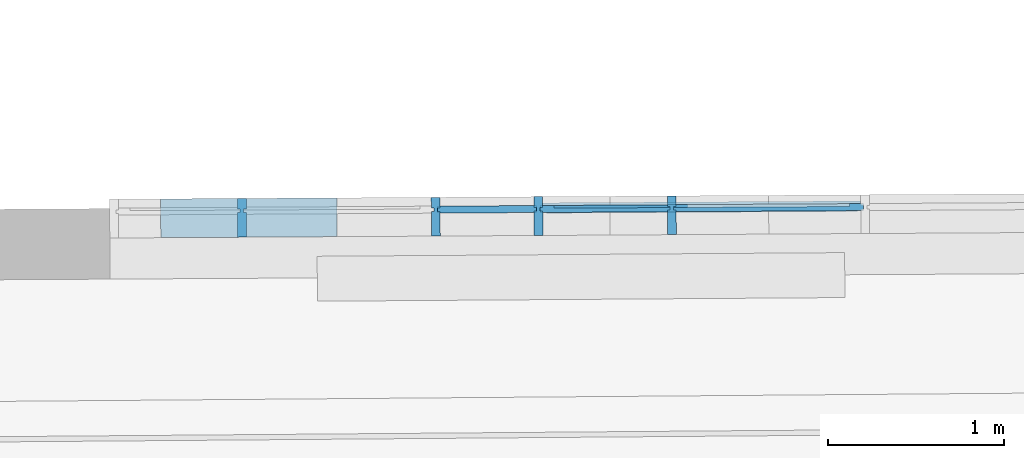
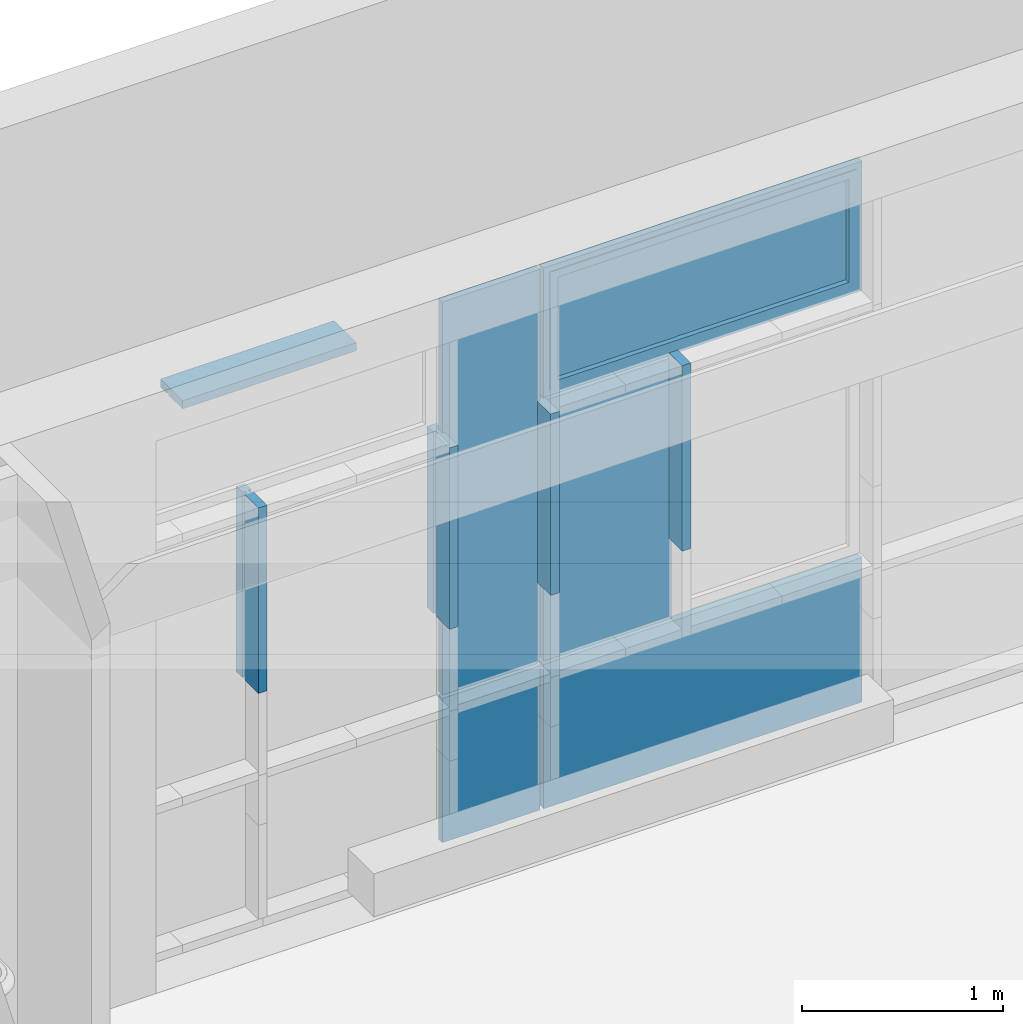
# One storey, part 132 of 196: 11 building element parts, 1 element without a shape of its own.
"""IFC2X3 building model written with IfcOpenShell, lengths in metres."""

from ifc_helpers import new_model, entity, si_unit, converted_unit, derived_unit, money_unit, direction, frame, origin_with_axes, place, context, subcontext, project, spatial, faceted_brep, material, type_object, element, aggregate, save


model = new_model("IFC2X3")

# Units and contexts
model_context = context("Model", 3, precision=1e-05, world=origin_with_axes(), true_north=direction((0.0, 1.0)))
body_context = subcontext(model_context, "Body", "Model", "MODEL_VIEW")
ifc_project = project(units=[si_unit("LENGTHUNIT", "METRE"), si_unit("AREAUNIT", "SQUARE_METRE"), si_unit("VOLUMEUNIT", "CUBIC_METRE"), converted_unit("PLANEANGLEUNIT", "DEGREE", entity("IfcPlaneAngleMeasure", 0.0174532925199), si_unit("PLANEANGLEUNIT", "RADIAN"), dimensions=[0, 0, 0, 0, 0, 0, 0]), money_unit("EUR"), converted_unit("TIMEUNIT", "Year", entity("IfcTimeMeasure", 31556926.0), si_unit("TIMEUNIT", "SECOND"), dimensions=[0, 0, 1, 0, 0, 0, 0]), si_unit("MASSUNIT", "GRAM", prefix="KILO"), si_unit("THERMODYNAMICTEMPERATUREUNIT", "DEGREE_CELSIUS"), si_unit("LUMINOUSINTENSITYUNIT", "LUMEN"), si_unit("ENERGYUNIT", "JOULE", prefix="MEGA"), derived_unit("THERMALCONDUCTANCEUNIT", [(si_unit("POWERUNIT", "WATT"), 1), (si_unit("LENGTHUNIT", "METRE"), -1), (si_unit("THERMODYNAMICTEMPERATUREUNIT", "KELVIN"), -1)]), derived_unit("SPECIFICHEATCAPACITYUNIT", [(si_unit("ENERGYUNIT", "JOULE"), 1), (si_unit("MASSUNIT", "GRAM", prefix="KILO"), -1), (si_unit("THERMODYNAMICTEMPERATUREUNIT", "KELVIN"), -1)]), derived_unit("MASSDENSITYUNIT", [(si_unit("MASSUNIT", "GRAM", prefix="KILO"), 1), (si_unit("VOLUMEUNIT", "CUBIC_METRE"), -1)])], contexts=[model_context])

# Site, building, storey
site_placement = place(None, origin_with_axes())
site = spatial("IfcSite", under=ifc_project, at=site_placement, Name="Gelände", CompositionType="ELEMENT")
building_placement = place(site_placement, origin_with_axes())
building = spatial("IfcBuilding", under=site, at=building_placement, Name="Gebäude", CompositionType="ELEMENT")
storey_placement = place(building_placement, frame((0.0, 0.0, -3.0), z_axis=(0.0, 0.0, 1.0), x_axis=(1.0, 0.0, 0.0)))
storey = spatial("IfcBuildingStorey", under=building, at=storey_placement, Name="KELLERGESCHOSS", CompositionType="ELEMENT", Elevation=-3.0)

# Proxy, building element parts
building_element_proxy_type = type_object("IfcBuildingElementProxyType", Name="Fassadentyp", PredefinedType="NOTDEFINED")
proxy_placement = place(storey_placement, frame((-23.6479994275, 53.9595773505, 0.421025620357), z_axis=(0.0, 0.0, 1.0), x_axis=(1.0, 0.0, 0.0)))
proxy = element("IfcBuildingElementProxy", 1, at=proxy_placement, inside=storey, type_object=building_element_proxy_type, Name="Fassade-002")
ifc_material_1 = material(Name="45_Glas, Normalglas")
building_element_part_1_placement = place(proxy_placement, origin_with_axes())
building_element_part_1 = element("IfcBuildingElementPart", 2, at=building_element_part_1_placement, material=ifc_material_1, Name="45_Glas, Normalglas", context=body_context, shape_type="Brep", body=[
    faceted_brep([(1.14490036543, -0.0132366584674, 0.910851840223), (1.54182975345, -0.0108917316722, 0.910851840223), (1.54159345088, 0.0291075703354, 0.910851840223), (1.14466406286, 0.0267626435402, 0.910851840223), (1.14490036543, -0.0132366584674, 0.619999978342), (1.14490036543, -0.0132366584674, 0.0349999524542), (1.54182975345, -0.0108917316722, 0.0349999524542), (2.44181404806, -0.00557492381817, 0.0349999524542), (2.97945075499, -0.00239874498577, 0.0349999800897), (2.97945075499, -0.00239874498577, 0.619999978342), (2.97945075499, -0.00239874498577, 0.910851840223), (2.44181404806, -0.00557492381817, 0.910851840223), (1.89201811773, -0.00882293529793, 0.910851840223), (1.89178181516, 0.0311763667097, 0.910851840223), (2.44157774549, 0.0344243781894, 0.910851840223), (2.97921445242, 0.0376005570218, 0.910851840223), (2.97921445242, 0.0376005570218, 0.619999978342), (2.97921445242, 0.0376005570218, 0.0349999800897), (2.44157774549, 0.0344243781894, 0.0349999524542), (1.54159345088, 0.0291075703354, 0.0349999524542), (1.14466406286, 0.0267626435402, 0.0349999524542), (1.14466406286, 0.0267626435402, 0.619999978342)], [[[0, 1, 2, 3]], [[0, 4, 5, 6, 7, 8, 9, 10, 11, 12, 1]], [[1, 12, 13, 2]], [[3, 2, 13, 14, 15, 16, 17, 18, 19, 20, 21]], [[4, 0, 3, 21]], [[5, 4, 21, 20]], [[6, 5, 20, 19]], [[7, 6, 19, 18]], [[8, 7, 18, 17]], [[9, 8, 17, 16]], [[10, 9, 16, 15]], [[11, 10, 15, 14]], [[12, 11, 14, 13]]]),
])
building_element_part_2_placement = place(proxy_placement, origin_with_axes())
building_element_part_2 = element("IfcBuildingElementPart", 3, at=building_element_part_2_placement, material=ifc_material_1, Name="45_Glas, Normalglas", context=body_context, shape_type="Brep", body=[
    faceted_brep([(0.562604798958, -0.0166766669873, 0.910851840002), (1.12490071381, -0.0133548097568, 0.910851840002), (1.12466441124, 0.0266444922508, 0.910851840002), (0.562368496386, 0.0233226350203, 0.910851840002), (0.562604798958, -0.0166766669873, 0.619999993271), (0.562604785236, -0.0166766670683, 0.0349999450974), (1.12490071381, -0.0133548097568, 0.0349999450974), (1.12490071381, -0.0133548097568, 0.619999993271), (1.12466441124, 0.0266444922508, 0.619999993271), (1.12466441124, 0.0266444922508, 0.0349999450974), (0.562368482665, 0.0233226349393, 0.0349999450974), (0.562368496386, 0.0233226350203, 0.619999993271)], [[[0, 1, 2, 3]], [[0, 4, 5, 6, 7, 1]], [[1, 7, 8, 2]], [[3, 2, 8, 9, 10, 11]], [[4, 0, 3, 11]], [[5, 4, 11, 10]], [[6, 5, 10, 9]], [[7, 6, 9, 8]]]),
])
building_element_part_3_placement = place(proxy_placement, origin_with_axes())
building_element_part_3 = element("IfcBuildingElementPart", 4, at=building_element_part_3_placement, material=ifc_material_1, Name="45_Glas, Normalglas", context=body_context, shape_type="Brep", body=[
    faceted_brep([(0.562604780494, -0.0166766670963, 3.31499988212), (1.12490070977, -0.0133548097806, 3.31499988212), (1.1246644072, 0.026644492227, 3.31499988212), (0.562368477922, 0.0233226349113, 3.31499988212), (0.562604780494, -0.0166766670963, 2.52000000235), (0.562604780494, -0.0166766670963, 1.41999998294), (0.56260481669, -0.0166766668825, 0.930851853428), (1.12490070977, -0.0133548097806, 0.930851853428), (1.12490070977, -0.0133548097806, 1.41999998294), (1.12490070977, -0.0133548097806, 2.52000000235), (1.1246644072, 0.026644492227, 2.52000000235), (1.1246644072, 0.026644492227, 1.41999998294), (1.1246644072, 0.026644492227, 0.930851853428), (0.562368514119, 0.0233226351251, 0.930851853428), (0.562368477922, 0.0233226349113, 1.41999998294), (0.562368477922, 0.0233226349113, 2.52000000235)], [[[0, 1, 2, 3]], [[0, 4, 5, 6, 7, 8, 9, 1]], [[1, 9, 10, 2]], [[3, 2, 10, 11, 12, 13, 14, 15]], [[4, 0, 3, 15]], [[5, 4, 15, 14]], [[6, 5, 14, 13]], [[7, 6, 13, 12]], [[8, 7, 12, 11]], [[9, 8, 11, 10]]]),
])
building_element_part_4_placement = place(proxy_placement, origin_with_axes())
building_element_part_4 = element("IfcBuildingElementPart", 5, at=building_element_part_4_placement, material=ifc_material_1, Name="45_Glas, Normalglas", context=body_context, shape_type="Brep", body=[
    faceted_brep([(1.14490036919, -0.0132366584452, 2.50999999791), (1.54182974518, -0.010891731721, 2.50999999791), (1.54159344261, 0.0291075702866, 2.50999999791), (1.14466406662, 0.0267626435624, 2.50999999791), (1.14490036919, -0.0132366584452, 1.41999998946), (1.14490036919, -0.0132366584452, 0.930851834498), (1.54182974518, -0.010891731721, 0.930851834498), (1.88201828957, -0.00888201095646, 0.930851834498), (1.8820183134, -0.00888201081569, 1.41999998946), (1.88201828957, -0.00888201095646, 2.50999999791), (1.881781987, 0.0311172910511, 2.50999999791), (1.88178201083, 0.0311172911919, 1.41999998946), (1.881781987, 0.0311172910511, 0.930851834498), (1.54159344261, 0.0291075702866, 0.930851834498), (1.14466406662, 0.0267626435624, 0.930851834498), (1.14466406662, 0.0267626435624, 1.41999998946)], [[[0, 1, 2, 3]], [[0, 4, 5, 6, 7, 8, 9, 1]], [[1, 9, 10, 2]], [[3, 2, 10, 11, 12, 13, 14, 15]], [[4, 0, 3, 15]], [[5, 4, 15, 14]], [[6, 5, 14, 13]], [[7, 6, 13, 12]], [[8, 7, 12, 11]], [[9, 8, 11, 10]]]),
])
ifc_material_2 = material(Name="53_Metall, Aluminium")
building_element_part_5_placement = place(proxy_placement, origin_with_axes())
building_element_part_5 = element("IfcBuildingElementPart", 6, at=building_element_part_5_placement, material=ifc_material_2, Name="53_Metall, Aluminium", context=body_context, shape_type="Brep", body=[
    faceted_brep([(2.96415563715, 0.0475117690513, 2.54499999), (1.15960472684, 0.0368510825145, 2.54499999), (1.15957518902, 0.0418509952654, 2.54499999), (2.96412609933, 0.0525116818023, 2.54499999), (2.91915642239, 0.0472459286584, 2.58999999), (1.2046039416, 0.0371169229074, 2.58999999), (1.20457440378, 0.0421168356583, 2.58999999), (2.91912688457, 0.0522458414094, 2.58999999)], [[[0, 1, 2, 3]], [[0, 4, 5, 1]], [[1, 5, 6, 2]], [[3, 2, 6, 7]], [[4, 0, 3, 7]], [[5, 4, 7, 6]]]),
    faceted_brep([(1.15960472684, 0.0368510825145, 2.54499999), (1.15960472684, 0.0368510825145, 3.29999989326), (1.15957518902, 0.0418509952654, 3.29999989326), (1.15957518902, 0.0418509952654, 2.54499999), (1.2046039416, 0.0371169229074, 2.58999999), (1.2046039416, 0.0371169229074, 3.25499989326), (1.20457440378, 0.0421168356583, 3.25499989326), (1.20457440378, 0.0421168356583, 2.58999999)], [[[0, 1, 2, 3]], [[0, 4, 5, 1]], [[1, 5, 6, 2]], [[3, 2, 6, 7]], [[4, 0, 3, 7]], [[5, 4, 7, 6]]]),
    faceted_brep([(2.96415563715, 0.0475117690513, 3.29999989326), (2.91915642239, 0.0472459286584, 3.25499989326), (2.91912688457, 0.0522458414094, 3.25499989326), (2.96412609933, 0.0525116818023, 3.29999989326), (1.15960472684, 0.0368510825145, 3.29999989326), (1.2046039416, 0.0371169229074, 3.25499989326), (1.20457440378, 0.0421168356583, 3.25499989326), (1.15957518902, 0.0418509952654, 3.29999989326)], [[[0, 1, 2, 3]], [[0, 4, 5, 1]], [[1, 5, 6, 2]], [[3, 2, 6, 7]], [[4, 0, 3, 7]], [[5, 4, 7, 6]]]),
    faceted_brep([(2.96415563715, 0.0475117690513, 2.54499999), (2.91915642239, 0.0472459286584, 2.58999999), (2.91912688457, 0.0522458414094, 2.58999999), (2.96412609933, 0.0525116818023, 2.54499999), (2.96415563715, 0.0475117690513, 3.29999989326), (2.91915642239, 0.0472459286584, 3.25499989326), (2.91912688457, 0.0522458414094, 3.25499989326), (2.96412609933, 0.0525116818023, 3.29999989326)], [[[0, 1, 2, 3]], [[0, 4, 5, 1]], [[1, 5, 6, 2]], [[3, 2, 6, 7]], [[4, 0, 3, 7]], [[5, 4, 7, 6]]]),
    faceted_brep([(2.96445101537, -0.00248735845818, 2.54499999), (1.15990010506, -0.013148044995, 2.54499999), (1.15960472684, 0.0368510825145, 2.54499999), (2.96415563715, 0.0475117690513, 2.54499999), (2.94445136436, -0.00260550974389, 2.56499999), (1.17989975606, -0.0130298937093, 2.56499999), (1.17960437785, 0.0369692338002, 2.56499999), (2.94415598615, 0.0473936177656, 2.56499999)], [[[0, 1, 2, 3]], [[0, 4, 5, 1]], [[1, 5, 6, 2]], [[3, 2, 6, 7]], [[4, 0, 3, 7]], [[5, 4, 7, 6]]]),
    faceted_brep([(1.15990010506, -0.013148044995, 2.54499999), (1.15990010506, -0.013148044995, 3.29999989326), (1.15960472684, 0.0368510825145, 3.29999989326), (1.15960472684, 0.0368510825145, 2.54499999), (1.17989975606, -0.0130298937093, 2.56499999), (1.17989975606, -0.0130298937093, 3.27999989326), (1.17960437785, 0.0369692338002, 3.27999989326), (1.17960437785, 0.0369692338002, 2.56499999)], [[[0, 1, 2, 3]], [[0, 4, 5, 1]], [[1, 5, 6, 2]], [[3, 2, 6, 7]], [[4, 0, 3, 7]], [[5, 4, 7, 6]]]),
    faceted_brep([(2.96445101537, -0.00248735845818, 3.29999989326), (2.94445136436, -0.00260550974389, 3.27999989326), (2.94415598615, 0.0473936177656, 3.27999989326), (2.96415563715, 0.0475117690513, 3.29999989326), (1.15990010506, -0.013148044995, 3.29999989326), (1.17989975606, -0.0130298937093, 3.27999989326), (1.17960437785, 0.0369692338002, 3.27999989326), (1.15960472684, 0.0368510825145, 3.29999989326)], [[[0, 1, 2, 3]], [[0, 4, 5, 1]], [[1, 5, 6, 2]], [[3, 2, 6, 7]], [[4, 0, 3, 7]], [[5, 4, 7, 6]]]),
    faceted_brep([(2.96445101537, -0.00248735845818, 2.54499999), (2.94445136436, -0.00260550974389, 2.56499999), (2.94415598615, 0.0473936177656, 2.56499999), (2.96415563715, 0.0475117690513, 2.54499999), (2.96445101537, -0.00248735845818, 3.29999989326), (2.94445136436, -0.00260550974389, 3.27999989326), (2.94415598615, 0.0473936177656, 3.27999989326), (2.96415563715, 0.0475117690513, 3.29999989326)], [[[0, 1, 2, 3]], [[0, 4, 5, 1]], [[1, 5, 6, 2]], [[3, 2, 6, 7]], [[4, 0, 3, 7]], [[5, 4, 7, 6]]]),
    faceted_brep([(2.97945075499, -0.00239874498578, 2.52999998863), (1.14490036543, -0.0132366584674, 2.52999998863), (1.14466406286, 0.0267626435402, 2.52999998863), (2.97921445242, 0.0376005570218, 2.52999998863), (2.96445101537, -0.00248735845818, 2.54499999), (1.15990010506, -0.013148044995, 2.54499999), (1.15966380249, 0.0268512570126, 2.54499999), (2.96421471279, 0.0375119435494, 2.54499999)], [[[0, 1, 2, 3]], [[0, 4, 5, 1]], [[1, 5, 6, 2]], [[3, 2, 6, 7]], [[4, 0, 3, 7]], [[5, 4, 7, 6]]]),
    faceted_brep([(1.14490036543, -0.0132366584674, 2.52999998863), (1.14490036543, -0.0132366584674, 3.31499989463), (1.14466406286, 0.0267626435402, 3.31499989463), (1.14466406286, 0.0267626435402, 2.52999998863), (1.15990010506, -0.013148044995, 2.54499999), (1.15990010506, -0.013148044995, 3.29999989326), (1.15966380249, 0.0268512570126, 3.29999989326), (1.15966380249, 0.0268512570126, 2.54499999)], [[[0, 1, 2, 3]], [[0, 4, 5, 1]], [[1, 5, 6, 2]], [[3, 2, 6, 7]], [[4, 0, 3, 7]], [[5, 4, 7, 6]]]),
    faceted_brep([(1.14490036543, -0.0132366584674, 3.31499989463), (2.97945075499, -0.00239874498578, 3.31499989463), (2.97921445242, 0.0376005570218, 3.31499989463), (1.14466406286, 0.0267626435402, 3.31499989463), (1.15990010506, -0.013148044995, 3.29999989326), (2.96445101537, -0.00248735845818, 3.29999989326), (2.96421471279, 0.0375119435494, 3.29999989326), (1.15966380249, 0.0268512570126, 3.29999989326)], [[[0, 1, 2, 3]], [[0, 4, 5, 1]], [[1, 5, 6, 2]], [[3, 2, 6, 7]], [[4, 0, 3, 7]], [[5, 4, 7, 6]]]),
    faceted_brep([(2.97945075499, -0.00239874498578, 3.31499989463), (2.97945075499, -0.00239874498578, 2.52999998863), (2.97921445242, 0.0376005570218, 2.52999998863), (2.97921445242, 0.0376005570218, 3.31499989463), (2.96445101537, -0.00248735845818, 3.29999989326), (2.96445101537, -0.00248735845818, 2.54499999), (2.96421471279, 0.0375119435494, 2.54499999), (2.96421471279, 0.0375119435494, 3.29999989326)], [[[0, 1, 2, 3]], [[0, 4, 5, 1]], [[1, 5, 6, 2]], [[3, 2, 6, 7]], [[4, 0, 3, 7]], [[5, 4, 7, 6]]]),
    faceted_brep([(2.89915677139, 0.0471277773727, 2.60999999), (2.89948168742, -0.00787126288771, 2.60999999), (2.89948168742, -0.00787126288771, 3.23499989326), (2.89915677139, 0.0471277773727, 3.23499989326), (2.94415598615, 0.0473936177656, 2.56499999), (2.94448090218, -0.00760542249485, 2.56499999), (2.94448090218, -0.00760542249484, 3.27999989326), (2.94415598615, 0.0473936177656, 3.27999989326)], [[[0, 1, 2, 3]], [[4, 5, 1, 0]], [[1, 5, 6, 2]], [[3, 2, 6, 7]], [[0, 3, 7, 4]], [[7, 6, 5, 4]]]),
    faceted_brep([(1.17960437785, 0.0369692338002, 2.56499999), (1.17992929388, -0.0180298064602, 2.56499999), (1.17992929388, -0.0180298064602, 3.27999989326), (1.17960437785, 0.0369692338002, 3.27999989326), (1.2246035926, 0.0372350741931, 2.60999999), (1.22492850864, -0.0177639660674, 2.60999999), (1.22492850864, -0.0177639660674, 3.23499989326), (1.2246035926, 0.0372350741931, 3.23499989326)], [[[0, 1, 2, 3]], [[4, 5, 1, 0]], [[1, 5, 6, 2]], [[3, 2, 6, 7]], [[0, 3, 7, 4]], [[7, 6, 5, 4]]]),
    faceted_brep([(1.17960437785, 0.0369692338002, 2.56499999), (1.17992929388, -0.0180298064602, 2.56499999), (1.22492850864, -0.0177639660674, 2.60999999), (1.2246035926, 0.0372350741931, 2.60999999), (2.94415598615, 0.0473936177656, 2.56499999), (2.94448090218, -0.00760542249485, 2.56499999), (2.89948168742, -0.00787126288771, 2.60999999), (2.89915677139, 0.0471277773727, 2.60999999)], [[[0, 1, 2, 3]], [[4, 5, 1, 0]], [[1, 5, 6, 2]], [[3, 2, 6, 7]], [[0, 3, 7, 4]], [[7, 6, 5, 4]]]),
    faceted_brep([(2.94415598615, 0.0473936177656, 3.27999989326), (2.94448090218, -0.00760542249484, 3.27999989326), (2.89948168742, -0.00787126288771, 3.23499989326), (2.89915677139, 0.0471277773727, 3.23499989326), (1.17960437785, 0.0369692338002, 3.27999989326), (1.17992929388, -0.0180298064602, 3.27999989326), (1.22492850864, -0.0177639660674, 3.23499989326), (1.2246035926, 0.0372350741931, 3.23499989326)], [[[0, 1, 2, 3]], [[4, 5, 1, 0]], [[1, 5, 6, 2]], [[3, 2, 6, 7]], [[0, 3, 7, 4]], [[7, 6, 5, 4]]]),
])
building_element_part_6_placement = place(proxy_placement, origin_with_axes())
building_element_part_6 = element("IfcBuildingElementPart", 7, at=building_element_part_6_placement, material=ifc_material_1, Name="45_Glas, Normalglas", context=body_context, shape_type="Brep", body=[
    faceted_brep([(2.89921584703, 0.0371279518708, 2.60999999), (2.89931036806, 0.0211282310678, 2.60999999), (1.22475718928, 0.0112355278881, 2.60999999), (1.22466266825, 0.0272352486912, 2.60999999), (2.89921584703, 0.0371279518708, 3.23499989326), (2.89931036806, 0.0211282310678, 3.23499989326), (1.22475718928, 0.0112355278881, 3.23499989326), (1.22466266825, 0.0272352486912, 3.23499989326)], [[[0, 1, 2, 3]], [[4, 5, 1, 0]], [[1, 5, 6, 2]], [[3, 2, 6, 7]], [[0, 3, 7, 4]], [[7, 6, 5, 4]]]),
])
building_element_part_7_placement = place(proxy_placement, origin_with_axes())
building_element_part_7 = element("IfcBuildingElementPart", 8, at=building_element_part_7_placement, material=ifc_material_2, Name="53_Metall, Aluminium", context=body_context, shape_type="Brep", body=[
    faceted_brep([(-0.556919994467, -0.0132902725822, 2.54499998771), (-0.57191973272, -0.0133788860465, 2.54499998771), (-0.57109267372, -0.153376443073, 2.54499998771), (-0.521093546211, -0.153081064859, 2.54499998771), (-0.521920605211, -0.0130835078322, 2.54499998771), (-0.536920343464, -0.0131721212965, 2.54499998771), (-0.537038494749, 0.00682752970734, 2.54499998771), (-0.522038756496, 0.00691614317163, 2.54499998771), (-0.522393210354, 0.066915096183, 2.54499998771), (-0.572392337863, 0.0666197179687, 2.54499998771), (-0.572037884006, 0.00662076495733, 2.54499998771), (-0.557038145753, 0.00670937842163, 2.54499998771), (-0.556919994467, -0.0132902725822, 1.41999998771), (-0.57191973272, -0.0133788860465, 1.41999998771), (-0.57109267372, -0.153376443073, 1.41999998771), (-0.521093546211, -0.153081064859, 1.41999998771), (-0.521920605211, -0.0130835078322, 1.41999998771), (-0.536920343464, -0.0131721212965, 1.41999998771), (-0.537038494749, 0.00682752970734, 1.41999998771), (-0.522038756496, 0.00691614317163, 1.41999998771), (-0.522393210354, 0.066915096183, 1.41999998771), (-0.572392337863, 0.0666197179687, 1.41999998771), (-0.572037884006, 0.00662076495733, 1.41999998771), (-0.557038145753, 0.00670937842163, 1.41999998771)], [[[0, 1, 2, 3, 4, 5, 6, 7, 8, 9, 10, 11]], [[1, 0, 12, 13]], [[1, 13, 14, 2]], [[3, 2, 14, 15]], [[4, 3, 15, 16]], [[4, 16, 17, 5]], [[5, 17, 18, 6]], [[7, 6, 18, 19]], [[19, 20, 8, 7]], [[9, 8, 20, 21]], [[22, 10, 9, 21]], [[11, 10, 22, 23]], [[0, 11, 23, 12]], [[23, 22, 21, 20, 19, 18, 17, 16, 15, 14, 13, 12]]]),
])
building_element_part_8_placement = place(proxy_placement, origin_with_axes())
building_element_part_8 = element("IfcBuildingElementPart", 9, at=building_element_part_8_placement, material=ifc_material_2, Name="53_Metall, Aluminium", context=body_context, shape_type="Brep", body=[
    faceted_brep([(1.1248416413, -0.00335498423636, 2.51999998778), (1.10984190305, -0.00344359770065, 2.51999998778), (1.11066896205, -0.143441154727, 2.51999998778), (1.16066808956, -0.143145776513, 2.51999998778), (1.15984103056, -0.00314821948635, 2.51999998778), (1.14484129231, -0.00323683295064, 2.51999998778), (1.14472314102, 0.0167628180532, 2.51999998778), (1.15972287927, 0.0168514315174, 2.51999998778), (1.15936842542, 0.0768503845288, 2.51999998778), (1.10936929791, 0.0765550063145, 2.51999998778), (1.10972375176, 0.0165560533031, 2.51999998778), (1.12472349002, 0.0166446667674, 2.51999998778), (1.1248416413, -0.00335498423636, 1.41999998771), (1.10984190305, -0.00344359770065, 1.41999998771), (1.11066896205, -0.143441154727, 1.41999998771), (1.16066808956, -0.143145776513, 1.41999998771), (1.15984103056, -0.00314821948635, 1.41999998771), (1.14484129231, -0.00323683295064, 1.41999998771), (1.14472314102, 0.0167628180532, 1.41999998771), (1.15972287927, 0.0168514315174, 1.41999998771), (1.15936842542, 0.0768503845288, 1.41999998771), (1.10936929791, 0.0765550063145, 1.41999998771), (1.10972375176, 0.0165560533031, 1.41999998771), (1.12472349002, 0.0166446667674, 1.41999998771)], [[[0, 1, 2, 3, 4, 5, 6, 7, 8, 9, 10, 11]], [[1, 0, 12, 13]], [[1, 13, 14, 2]], [[3, 2, 14, 15]], [[4, 3, 15, 16]], [[4, 16, 17, 5]], [[5, 17, 18, 6]], [[7, 6, 18, 19]], [[19, 20, 8, 7]], [[9, 8, 20, 21]], [[22, 10, 9, 21]], [[11, 10, 22, 23]], [[0, 11, 23, 12]], [[23, 22, 21, 20, 19, 18, 17, 16, 15, 14, 13, 12]]]),
])
building_element_part_9_placement = place(proxy_placement, origin_with_axes())
building_element_part_9 = element("IfcBuildingElementPart", 10, at=building_element_part_9_placement, material=ifc_material_2, Name="53_Metall, Aluminium", context=body_context, shape_type="Brep", body=[
    faceted_brep([(0.542546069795, -0.00679499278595, 2.51999998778), (0.527546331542, -0.00688360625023, 2.51999998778), (0.528373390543, -0.146881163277, 2.51999998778), (0.578372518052, -0.146585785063, 2.51999998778), (0.577545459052, -0.00658822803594, 2.51999998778), (0.562545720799, -0.00667684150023, 2.51999998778), (0.562427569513, 0.0133228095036, 2.51999998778), (0.577427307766, 0.0134114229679, 2.51999998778), (0.577072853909, 0.0734103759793, 2.51999998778), (0.5270737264, 0.073114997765, 2.51999998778), (0.527428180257, 0.0131160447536, 2.51999998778), (0.54242791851, 0.0132046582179, 2.51999998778), (0.542546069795, -0.00679499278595, 1.41999998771), (0.527546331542, -0.00688360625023, 1.41999998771), (0.528373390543, -0.146881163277, 1.41999998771), (0.578372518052, -0.146585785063, 1.41999998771), (0.577545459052, -0.00658822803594, 1.41999998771), (0.562545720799, -0.00667684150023, 1.41999998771), (0.562427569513, 0.0133228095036, 1.41999998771), (0.577427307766, 0.0134114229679, 1.41999998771), (0.577072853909, 0.0734103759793, 1.41999998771), (0.5270737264, 0.073114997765, 1.41999998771), (0.527428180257, 0.0131160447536, 1.41999998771), (0.54242791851, 0.0132046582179, 1.41999998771)], [[[0, 1, 2, 3, 4, 5, 6, 7, 8, 9, 10, 11]], [[1, 0, 12, 13]], [[1, 13, 14, 2]], [[3, 2, 14, 15]], [[4, 3, 15, 16]], [[4, 16, 17, 5]], [[5, 17, 18, 6]], [[7, 6, 18, 19]], [[19, 20, 8, 7]], [[9, 8, 20, 21]], [[22, 10, 9, 21]], [[11, 10, 22, 23]], [[0, 11, 23, 12]], [[23, 22, 21, 20, 19, 18, 17, 16, 15, 14, 13, 12]]]),
])
building_element_part_10_placement = place(proxy_placement, origin_with_axes())
building_element_part_10 = element("IfcBuildingElementPart", 11, at=building_element_part_10_placement, material=ifc_material_2, Name="53_Metall, Aluminium", context=body_context, shape_type="Brep", body=[
    faceted_brep([(1.88195922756, 0.00111781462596, 2.54499998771), (1.86695948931, 0.00102920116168, 2.54499998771), (1.86778654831, -0.138968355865, 2.54499998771), (1.91778567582, -0.138672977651, 2.54499998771), (1.91695861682, 0.00132457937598, 2.54499998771), (1.90195887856, 0.00123596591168, 2.54499998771), (1.90184072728, 0.0212356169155, 2.54499998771), (1.91684046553, 0.0213242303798, 2.54499998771), (1.91648601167, 0.0813231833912, 2.54499998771), (1.86648688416, 0.0810278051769, 2.54499998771), (1.86684133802, 0.0210288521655, 2.54499998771), (1.88184107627, 0.0211174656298, 2.54499998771), (1.88195922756, 0.00111781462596, 1.41999998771), (1.86695948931, 0.00102920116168, 1.41999998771), (1.86778654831, -0.138968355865, 1.41999998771), (1.91778567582, -0.138672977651, 1.41999998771), (1.91695861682, 0.00132457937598, 1.41999998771), (1.90195887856, 0.00123596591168, 1.41999998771), (1.90184072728, 0.0212356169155, 1.41999998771), (1.91684046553, 0.0213242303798, 1.41999998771), (1.91648601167, 0.0813231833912, 1.41999998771), (1.86648688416, 0.0810278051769, 1.41999998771), (1.86684133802, 0.0210288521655, 1.41999998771), (1.88184107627, 0.0211174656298, 1.41999998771)], [[[0, 1, 2, 3, 4, 5, 6, 7, 8, 9, 10, 11]], [[1, 0, 12, 13]], [[1, 13, 14, 2]], [[3, 2, 14, 15]], [[4, 3, 15, 16]], [[4, 16, 17, 5]], [[5, 17, 18, 6]], [[7, 6, 18, 19]], [[19, 20, 8, 7]], [[9, 8, 20, 21]], [[22, 10, 9, 21]], [[11, 10, 22, 23]], [[0, 11, 23, 12]], [[23, 22, 21, 20, 19, 18, 17, 16, 15, 14, 13, 12]]]),
])
building_element_part_11_placement = place(proxy_placement, origin_with_axes())
building_element_part_11 = element("IfcBuildingElementPart", 12, at=building_element_part_11_placement, material=ifc_material_2, Name="53_Metall, Aluminium", context=body_context, shape_type="Brep", body=[
    faceted_brep([(-1.00818483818, -0.0159561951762, 3.31499989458), (-1.00818483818, -0.0159561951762, 3.29999989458), (-1.00735777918, -0.155953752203, 3.29999989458), (-1.00735777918, -0.155953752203, 3.34999989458), (-1.00865744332, 0.064042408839, 3.34999989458), (-1.00865744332, 0.064042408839, 3.29999989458), (-1.00830298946, 0.00404345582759, 3.29999989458), (-1.00830298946, 0.00404345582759, 3.31499989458), (-0.00820228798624, -0.0100486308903, 3.31499989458), (-0.00820228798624, -0.0100486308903, 3.29999989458), (-0.00737522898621, -0.150046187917, 3.29999989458), (-0.00737522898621, -0.150046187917, 3.34999989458), (-0.00867489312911, 0.0699499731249, 3.34999989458), (-0.00867489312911, 0.0699499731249, 3.29999989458), (-0.00832043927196, 0.00995102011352, 3.29999989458), (-0.00832043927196, 0.00995102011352, 3.31499989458)], [[[0, 1, 2, 3, 4, 5, 6, 7]], [[0, 8, 9, 1]], [[9, 10, 2, 1]], [[10, 11, 3, 2]], [[11, 12, 4, 3]], [[12, 13, 5, 4]], [[6, 5, 13, 14]], [[14, 15, 7, 6]], [[7, 15, 8, 0]], [[8, 15, 14, 13, 12, 11, 10, 9]]]),
])
aggregate(proxy, [building_element_part_1, building_element_part_2, building_element_part_3, building_element_part_4, building_element_part_5, building_element_part_6, building_element_part_7, building_element_part_8, building_element_part_9, building_element_part_10, building_element_part_11])

save(model, "model.ifc")
